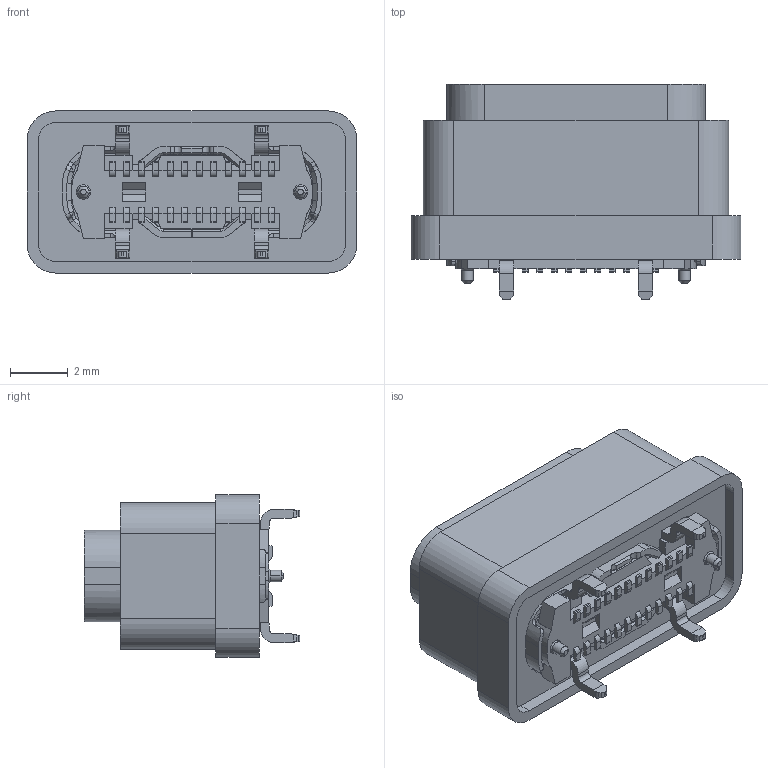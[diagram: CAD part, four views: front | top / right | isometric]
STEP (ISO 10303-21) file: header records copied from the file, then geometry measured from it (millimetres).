
FILE_DESCRIPTION((''),'2;1');
FILE_NAME('TYPE_C_24PH_6_5_4_0001','2023-01-05T14:27:45',('Administrator'),(''),'CREO PARAMETRIC BY PTC INC, 2019080','CREO PARAMETRIC BY PTC INC, 2019080','');
FILE_SCHEMA(('CONFIG_CONTROL_DESIGN'));
Length unit declared in the file: metre
Products named in the file (1): TYPE_C_24PH_6_5_4_0001
Bounding box: 11.4 x 7.45 x 5.6 mm (x, y, z)
Volume: 217.2 mm3; surface area: 703.5 mm2
Topology: 1 solids, 2 shells, 794 faces, 2207 edges, 1414 vertices
Faces by surface type: plane 557, cylinder 193, cone 32, bspline 8, torus 4
Entity records: 25894 total; most frequent: CARTESIAN_POINT 5405, ORIENTED_EDGE 4404, DIRECTION 4108, EDGE_CURVE 2203, VECTOR 1710, LINE 1710, VERTEX_POINT 1414, AXIS2_PLACEMENT_3D 1199
